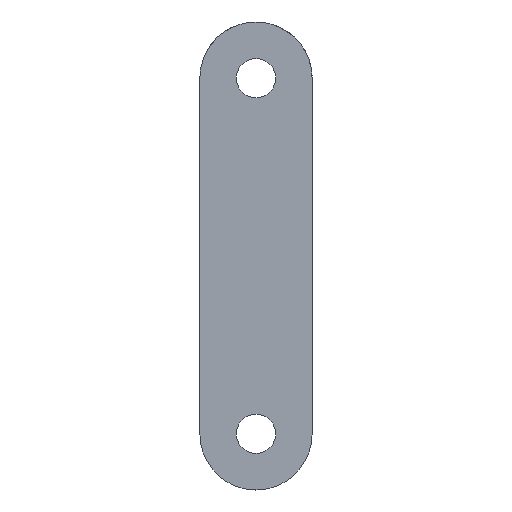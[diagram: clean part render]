
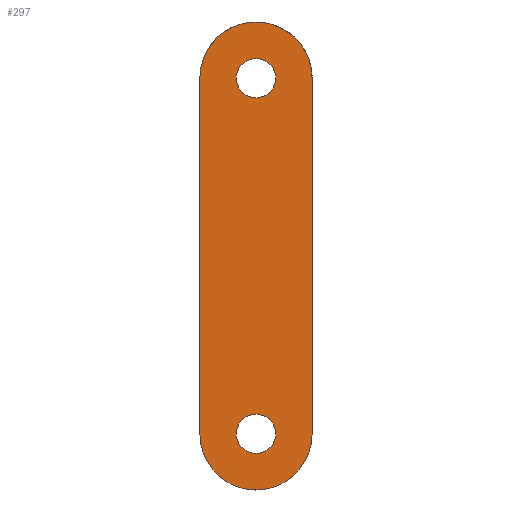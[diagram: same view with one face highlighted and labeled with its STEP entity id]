
A CAD part, left-side view. The second image highlights one B-rep face of the part: STEP entity #297.
In plain terms, the highlighted planar face has unit normal (-1, 0, 0).
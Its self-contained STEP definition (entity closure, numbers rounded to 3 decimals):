
#10=B_SPLINE_CURVE_WITH_KNOTS('',3,(#513,#514,#515,#516,#517),
 .UNSPECIFIED.,.F.,.F.,(4,1,4),(0.,0.005,
0.009),.UNSPECIFIED.);
#11=B_SPLINE_CURVE_WITH_KNOTS('',3,(#519,#520,#521,#522,#523),
 .UNSPECIFIED.,.F.,.F.,(4,1,4),(0.,0.005,0.009),
 .UNSPECIFIED.);
#30=CIRCLE('',#342,2.1);
#31=CIRCLE('',#343,6.);
#32=CIRCLE('',#344,2.1);
#80=ORIENTED_EDGE('',*,*,#137,.F.);
#81=ORIENTED_EDGE('',*,*,#138,.T.);
#82=ORIENTED_EDGE('',*,*,#139,.T.);
#83=ORIENTED_EDGE('',*,*,#140,.T.);
#84=ORIENTED_EDGE('',*,*,#141,.T.);
#85=ORIENTED_EDGE('',*,*,#142,.T.);
#86=ORIENTED_EDGE('',*,*,#143,.F.);
#137=EDGE_CURVE('',#170,#170,#30,.F.);
#138=EDGE_CURVE('',#171,#172,#193,.T.);
#139=EDGE_CURVE('',#172,#173,#10,.T.);
#140=EDGE_CURVE('',#173,#174,#11,.T.);
#141=EDGE_CURVE('',#174,#175,#194,.T.);
#142=EDGE_CURVE('',#175,#171,#31,.F.);
#143=EDGE_CURVE('',#176,#176,#32,.F.);
#170=VERTEX_POINT('',#509);
#171=VERTEX_POINT('',#511);
#172=VERTEX_POINT('',#512);
#173=VERTEX_POINT('',#518);
#174=VERTEX_POINT('',#524);
#175=VERTEX_POINT('',#526);
#176=VERTEX_POINT('',#529);
#193=LINE('',#510,#211);
#194=LINE('',#525,#212);
#211=VECTOR('',#395,1000.);
#212=VECTOR('',#396,1000.);
#235=EDGE_LOOP('',(#80));
#236=EDGE_LOOP('',(#81,#82,#83,#84,#85));
#237=EDGE_LOOP('',(#86));
#265=FACE_BOUND('',#235,.T.);
#266=FACE_BOUND('',#236,.T.);
#267=FACE_BOUND('',#237,.T.);
#284=PLANE('',#341);
#297=ADVANCED_FACE('',(#265,#266,#267),#284,.F.);
#341=AXIS2_PLACEMENT_3D('',#507,#391,#392);
#342=AXIS2_PLACEMENT_3D('',#508,#393,#394);
#343=AXIS2_PLACEMENT_3D('',#527,#397,#398);
#344=AXIS2_PLACEMENT_3D('',#528,#399,#400);
#391=DIRECTION('',(1.,0.,0.));
#392=DIRECTION('',(0.,0.,1.));
#393=DIRECTION('',(1.,0.,0.));
#394=DIRECTION('',(0.,0.,-1.));
#395=DIRECTION('',(0.,0.,1.));
#396=DIRECTION('',(0.,0.,-1.));
#397=DIRECTION('',(1.,0.,0.));
#398=DIRECTION('',(0.,0.,-1.));
#399=DIRECTION('',(1.,0.,0.));
#400=DIRECTION('',(0.,0.,-1.));
#507=CARTESIAN_POINT('',(9.326,-162.575,76.237));
#508=CARTESIAN_POINT('',(9.326,14.296,55.742));
#509=CARTESIAN_POINT('',(9.326,14.296,53.642));
#510=CARTESIAN_POINT('',(9.326,8.296,55.742));
#511=CARTESIAN_POINT('',(9.326,8.296,17.742));
#512=CARTESIAN_POINT('',(9.326,8.296,55.742));
#513=CARTESIAN_POINT('',(9.326,8.296,55.742));
#514=CARTESIAN_POINT('',(9.326,8.296,57.327));
#515=CARTESIAN_POINT('',(9.326,9.6,60.432));
#516=CARTESIAN_POINT('',(9.326,12.711,61.742));
#517=CARTESIAN_POINT('',(9.326,14.296,61.742));
#518=CARTESIAN_POINT('',(9.326,14.296,61.742));
#519=CARTESIAN_POINT('',(9.326,14.296,61.742));
#520=CARTESIAN_POINT('',(9.326,15.88,61.742));
#521=CARTESIAN_POINT('',(9.326,18.986,60.438));
#522=CARTESIAN_POINT('',(9.326,20.296,57.327));
#523=CARTESIAN_POINT('',(9.326,20.296,55.742));
#524=CARTESIAN_POINT('',(9.326,20.296,55.742));
#525=CARTESIAN_POINT('',(9.326,20.296,17.742));
#526=CARTESIAN_POINT('',(9.326,20.296,17.742));
#527=CARTESIAN_POINT('',(9.326,14.296,17.742));
#528=CARTESIAN_POINT('',(9.326,14.296,17.742));
#529=CARTESIAN_POINT('',(9.326,14.296,15.642));
